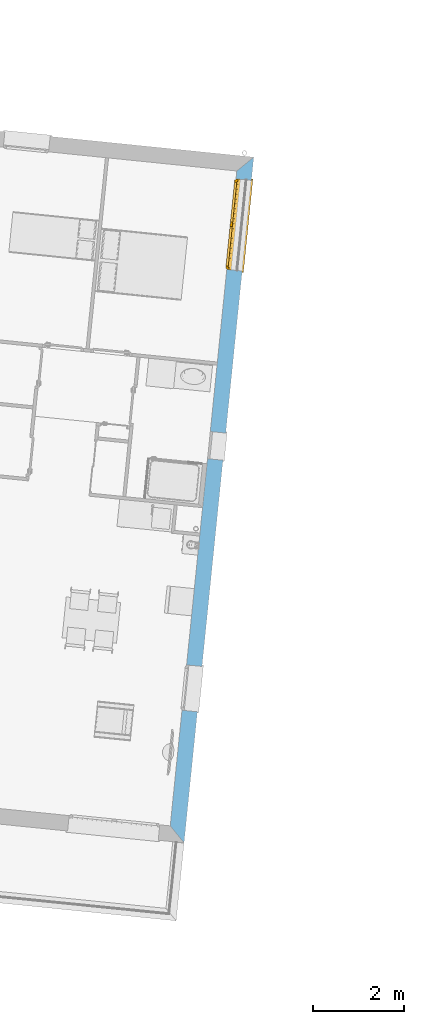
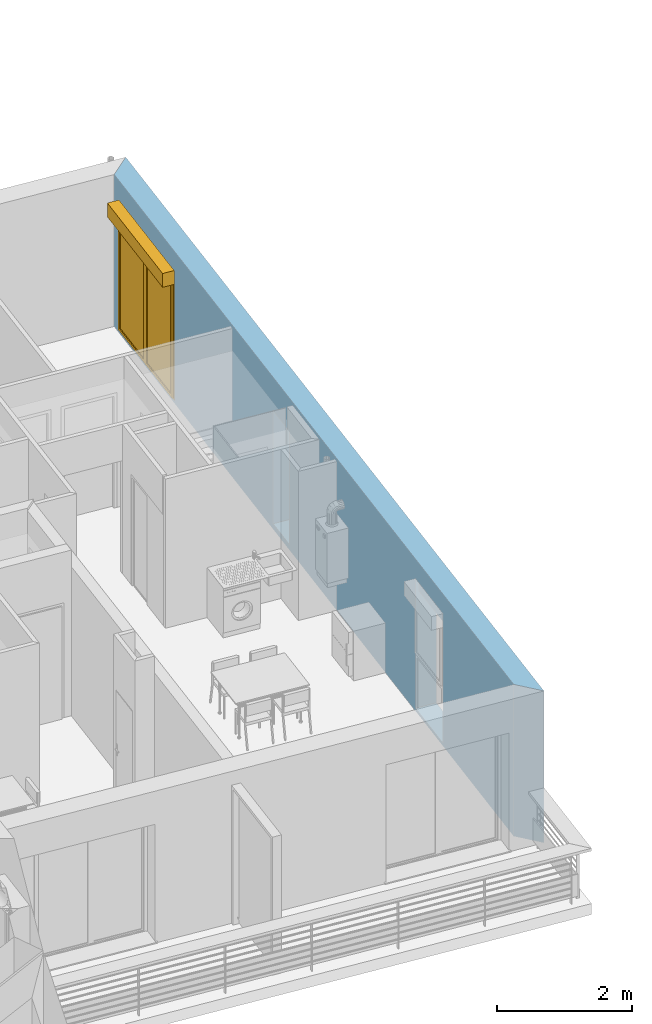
# One storey, part 59 of 164: 1 window, 3 openings, plus 1 element that does not belong to this part.
"""IFC2X3 building model written with IfcOpenShell, lengths in millimetres."""

from ifc_helpers import new_model, entity, si_unit, converted_unit, derived_unit, money_unit, direction, frame, origin_with_axes, origin_2d_with_axis, place, context, subcontext, project, spatial, polyline, rectangle, outline, extrude, open_shell, faceted_brep, surface_model, source, transform, mapped, material, layer, layer_set, layer_usage, type_object, element, fill, save


model = new_model("IFC2X3")

# Units and contexts
model_context = context("Model", 3, precision=0.01, world=origin_with_axes(), true_north=direction((0.0, 1.0)))
body_context = subcontext(model_context, "Body", "Model", "MODEL_VIEW")
ifc_project = project(units=[si_unit("LENGTHUNIT", "METRE", prefix="MILLI"), si_unit("AREAUNIT", "SQUARE_METRE"), si_unit("VOLUMEUNIT", "CUBIC_METRE"), converted_unit("PLANEANGLEUNIT", "DEGREE", entity("IfcPlaneAngleMeasure", 0.0174532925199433), si_unit("PLANEANGLEUNIT", "RADIAN"), dimensions=[0, 0, 0, 0, 0, 0, 0]), money_unit("USD"), converted_unit("TIMEUNIT", "Year", entity("IfcTimeMeasure", 31557600.0), si_unit("TIMEUNIT", "SECOND"), dimensions=[0, 0, 1, 0, 0, 0, 0]), si_unit("MASSUNIT", "GRAM", prefix="KILO"), si_unit("THERMODYNAMICTEMPERATUREUNIT", "DEGREE_CELSIUS"), si_unit("LUMINOUSINTENSITYUNIT", "LUMEN"), si_unit("ENERGYUNIT", "JOULE", prefix="MEGA"), derived_unit("THERMALCONDUCTANCEUNIT", [(si_unit("POWERUNIT", "WATT"), 1), (si_unit("LENGTHUNIT", "METRE"), -1), (si_unit("THERMODYNAMICTEMPERATUREUNIT", "KELVIN"), -1)]), derived_unit("SPECIFICHEATCAPACITYUNIT", [(si_unit("ENERGYUNIT", "JOULE"), 1), (si_unit("MASSUNIT", "GRAM", prefix="KILO"), -1), (si_unit("THERMODYNAMICTEMPERATUREUNIT", "KELVIN"), -1)]), derived_unit("MASSDENSITYUNIT", [(si_unit("MASSUNIT", "GRAM", prefix="KILO"), 1), (si_unit("VOLUMEUNIT", "CUBIC_METRE"), -1)])], contexts=[model_context])

# Site, building, storey
site_placement = place(None, origin_with_axes())
site = spatial("IfcSite", under=ifc_project, at=site_placement, Name="Site", CompositionType="ELEMENT")
building_placement = place(site_placement, origin_with_axes())
building = spatial("IfcBuilding", under=site, at=building_placement, Name="Bâtiment", CompositionType="ELEMENT")
storey_placement = place(building_placement, frame((0.0, 0.0, 5750.0), z_axis=(0.0, 0.0, 1.0), x_axis=(1.0, 0.0, 0.0)))
storey = spatial("IfcBuildingStorey", under=building, at=storey_placement, Name="Etage1", CompositionType="ELEMENT", Elevation=5750.0)

# Wall, openings, window
ifc_material_1 = material(Name="Parpaing 312445824")
ifc_layer_1 = layer(ifc_material_1, 180.0, ventilated="UNKNOWN")
ifc_material_2 = material(Name="Isolant styromousse 301821074")
ifc_layer_2 = layer(ifc_material_2, 160.0, ventilated="UNKNOWN")
ifc_layer_set = layer_set([ifc_layer_1, ifc_layer_2], Name="isol int 18+16 0018356637")
ifc_layer_usage = layer_usage(ifc_layer_set, "AXIS2", "NEGATIVE", 0.0)
wall_type = type_object("IfcWallType", Name="isol int 18+16 0018356637 340", PredefinedType="NOTDEFINED")
wall_placement = place(storey_placement, frame((2240182.946874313, -606236.1516955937, 0.0), z_axis=(0.0, 0.0, 1.0), x_axis=(-0.1011032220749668, -0.9948759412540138, 0.0)))
wall = element("IfcWallStandardCase", 1, at=wall_placement, inside=storey, type_object=wall_type, material=ifc_layer_usage, Name="Mur-142", context=body_context, shape_type="SweptSolid", body=[
    extrude(outline(polyline([(340.0000000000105, -340.0000000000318), (14791.61370310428, -340.0000000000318), (15131.61370310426, -1.13686837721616e-10), (0.0, 0.0), (340.0000000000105, -340.0000000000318)])), origin_with_axes(), (0.0, 0.0, 1.0), 2750.0),
])
opening_1_placement = place(wall_placement, frame((6388.845141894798, -3.410605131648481e-10, 99.99999999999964), z_axis=(0.0, 0.0, 1.0), x_axis=(1.0, 0.0, 0.0)))
element("IfcOpeningElement", 2, at=opening_1_placement, cuts=wall, Name="Fen-133", context=body_context, shape_type="SweptSolid", body=[
    extrude(rectangle(XDim=599.9999999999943, YDim=2050.0, at=origin_2d_with_axis()), frame((0.0, -290.0000000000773, 1025.0), z_axis=(0.0, -1.0, 0.0), x_axis=(-1.0, 0.0, 0.0)), (0.0, 0.0, -1.0), 629.9999999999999),
    extrude(rectangle(XDim=599.9999999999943, YDim=2050.0, at=origin_2d_with_axis()), frame((0.0, -290.0000000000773, 1025.0), z_axis=(0.0, 1.0, 0.0), x_axis=(-1.0, 0.0, 0.0)), (0.0, 0.0, -1.0), 389.9999999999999),
])
opening_2_placement = place(wall_placement, frame((11739.30937232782, -3.410605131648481e-10, 49.99999999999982), z_axis=(0.0, 0.0, 1.0), x_axis=(1.0, 0.0, 0.0)))
element("IfcOpeningElement", 3, at=opening_2_placement, cuts=wall, Name="Fen-133", context=body_context, shape_type="Brep", body=[
    faceted_brep([(-500.0, -290.0000000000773, 2100.0), (-500.0000000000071, -279.999999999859, 2100.0), (-499.9999999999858, 1523.015834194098, 2100.0), (-499.9999999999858, 1523.015834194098, 0.0), (-499.9999999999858, -290.0000000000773, 0.0), (-499.9999999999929, -529.9999999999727, 2100.0), (-499.9999999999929, -529.9999999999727, 2350.0), (-500.0000000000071, -279.999999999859, 2350.0), (500.0, -279.9999999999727, 2100.0), (500.0000000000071, 1523.015834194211, 2100.0), (500.0000000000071, 1523.015834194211, 0.0), (500.0000000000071, -289.9999999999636, 0.0), (500.0, -1863.015834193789, 0.0), (-500.0, -1863.015834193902, 0.0), (-500.0, -1863.015834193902, 2100.0), (500.0000000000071, -529.9999999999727, 2100.0), (500.0000000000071, -529.9999999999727, 2350.0), (500.0, -279.9999999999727, 2350.0), (500.0, -289.9999999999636, 2100.0), (500.0, -1863.015834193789, 2100.0)], [[[0, 1, 2, 3, 4]], [[1, 0, 5, 6, 7]], [[1, 8, 9, 2]], [[9, 10, 3, 2]], [[4, 3, 10, 11, 12, 13]], [[5, 0, 4, 13, 14]], [[5, 15, 16, 6]], [[16, 17, 7, 6]], [[8, 1, 7, 17]], [[8, 18, 11, 10, 9]], [[18, 15, 19, 12, 11]], [[14, 13, 12, 19]], [[15, 5, 14, 19]], [[18, 8, 17, 16, 15]]]),
])
opening_3_placement = place(wall_placement, frame((1513.435922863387, -3.410605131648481e-10, 49.99999999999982), z_axis=(0.0, 0.0, 1.0), x_axis=(1.0, 0.0, 0.0)))
opening_3 = element("IfcOpeningElement", 4, at=opening_3_placement, cuts=wall, Name="Fen-207", context=body_context, shape_type="Brep", body=[
    faceted_brep([(-1000.0, -290.0000000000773, 2100.0), (-999.999999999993, -279.9999999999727, 2100.0), (-1000.000000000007, 1523.015834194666, 2100.0), (-1000.000000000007, 1523.015834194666, 0.0), (-999.999999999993, -290.0000000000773, 0.0), (-1000.0, -529.9999999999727, 2100.0), (-1000.0, -529.9999999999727, 2350.0), (-999.999999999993, -279.9999999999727, 2350.0), (1000.000000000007, -279.9999999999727, 2100.0), (1000.0, 1523.015834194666, 2100.0), (1000.0, 1523.015834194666, 0.0), (1000.0, -289.9999999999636, 0.0), (1000.000000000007, -1863.015834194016, 0.0), (-1000.0, -1863.015834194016, 0.0), (-1000.0, -1863.015834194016, 2100.0), (1000.0, -530.0000000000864, 2100.0), (1000.0, -530.0000000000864, 2350.0), (1000.000000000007, -279.9999999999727, 2350.0), (1000.0, -289.9999999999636, 2100.0), (1000.000000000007, -1863.015834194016, 2100.0)], [[[0, 1, 2, 3, 4]], [[1, 0, 5, 6, 7]], [[1, 8, 9, 2]], [[9, 10, 3, 2]], [[4, 3, 10, 11, 12, 13]], [[5, 0, 4, 13, 14]], [[5, 15, 16, 6]], [[7, 6, 16, 17]], [[8, 1, 7, 17]], [[8, 18, 11, 10, 9]], [[18, 15, 19, 12, 11]], [[14, 13, 12, 19]], [[15, 5, 14, 19]], [[18, 8, 17, 16, 15]]]),
])
window_style = type_object("IfcWindowStyle", Name="Fenêtre châssis double variable 27", ConstructionType="NOTDEFINED", OperationType="DOUBLE_PANEL_VERTICAL", ParameterTakesPrecedence=False, Sizeable=False)
shared_shape = source(origin_with_axes(), body_context, "Body", "SurfaceModel", [
    surface_model("IfcShellBasedSurfaceModel", [(1000.0, -51.00000000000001, 40.00000000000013), (1000.0, -51.00000000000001, 50.00000000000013), (-1000.0, -51.00000000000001, 50.0), (-1000.0, -51.00000000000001, 40.0), (1030.0, -369.9999999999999, 28.96551724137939), (1030.0, -339.9999999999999, 30.00324289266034), (1000.0, -339.9999999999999, 30.00324289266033), (-1000.0, -339.9999999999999, 30.00324289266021), (-1030.0, -339.9999999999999, 30.00324289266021), (-1030.0, -369.9999999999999, 28.96551724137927), (1030.0, -369.9999999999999, 8.965517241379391), (-1030.0, -369.9999999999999, 8.965517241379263), (1030.0, -359.9999999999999, 18.96551724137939), (-1030.0, -359.9999999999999, 18.96551724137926)], [open_shell([[[0, 1, 2, 3]], [[4, 5, 6, 0, 3, 7, 8, 9]], [[10, 4, 9, 11]], [[12, 10, 11, 13]]])]),
    faceted_brep([(-1000.0, -60.00000000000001, 2350.0), (-997.0, -60.00000000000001, 2350.0), (-997.0, 190.0, 2350.0), (-1000.0, 190.0, 2350.0), (-1000.0, -60.00000000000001, 2100.0), (-997.0, -60.00000000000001, 2100.0), (-997.0, 190.0, 2100.0), (-1000.0, 190.0, 2100.0)], [[[0, 1, 2, 3]], [[4, 5, 1, 0]], [[1, 5, 6, 2]], [[3, 2, 6, 7]], [[0, 3, 7, 4]], [[7, 6, 5, 4]]]),
    faceted_brep([(997.0000000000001, -59.99999999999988, 2350.0), (1000.0, -59.99999999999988, 2350.0), (1000.0, 190.0000000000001, 2350.0), (997.0000000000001, 190.0000000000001, 2350.0), (997.0000000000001, -59.99999999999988, 2100.0), (1000.0, -59.99999999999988, 2100.0), (1000.0, 190.0000000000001, 2100.0), (997.0000000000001, 190.0000000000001, 2100.0)], [[[0, 1, 2, 3]], [[4, 5, 1, 0]], [[1, 5, 6, 2]], [[3, 2, 6, 7]], [[0, 3, 7, 4]], [[7, 6, 5, 4]]]),
    faceted_brep([(-997.0, -60.0, 2100.0), (997.0, -59.99999999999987, 2100.0), (997.0, -59.99999999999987, 2350.0), (-997.0, -60.0, 2350.0), (-997.0, -56.99999999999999, 2100.0), (997.0, -56.99999999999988, 2100.0), (997.0, -56.99999999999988, 2347.0), (997.0, 187.0000000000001, 2347.0), (997.0, 187.0000000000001, 2103.0), (997.0, -37.99999999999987, 2103.0), (997.0, -37.99999999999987, 2100.0), (997.0, 190.0000000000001, 2100.0), (997.0, 190.0000000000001, 2350.0), (-997.0, 190.0, 2350.0), (-997.0, 190.0, 2100.0), (-997.0, -37.99999999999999, 2100.0), (-997.0, -37.99999999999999, 2103.0), (-997.0, 187.0, 2103.0), (-997.0, 187.0, 2347.0), (-997.0, -56.99999999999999, 2347.0)], [[[0, 1, 2, 3]], [[4, 5, 1, 0]], [[1, 5, 6, 7, 8, 9, 10, 11, 12, 2]], [[3, 2, 12, 13]], [[0, 3, 13, 14, 15, 16, 17, 18, 19, 4]], [[19, 6, 5, 4]], [[18, 7, 6, 19]], [[17, 8, 7, 18]], [[16, 9, 8, 17]], [[15, 10, 9, 16]], [[14, 11, 10, 15]], [[13, 12, 11, 14]]]),
    faceted_brep([(-994.0, -40.37442957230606, 2206.419644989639), (-994.0, -41.99999999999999, 2225.0), (-994.0, -40.37442957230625, 2243.580355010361), (-994.0, -35.54711042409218, 2261.596155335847), (-994.0, -27.66471820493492, 2278.5), (-994.0, -16.96675541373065, 2293.77827423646), (-994.0, -3.778274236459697, 2306.966755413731), (-994.0, 11.5, 2317.664718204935), (-994.0, 28.40384466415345, 2325.547110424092), (-994.0, 46.41964498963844, 2330.374429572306), (-994.0, 64.99999999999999, 2332.0), (-994.0, 83.58035501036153, 2330.374429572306), (-994.0, 101.5961553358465, 2325.547110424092), (-994.0, 118.5, 2317.664718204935), (-994.0, 133.7782742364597, 2306.966755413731), (-994.0, 146.9667554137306, 2293.77827423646), (-994.0, 157.6647182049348, 2278.5), (-994.0, 165.5471104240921, 2261.596155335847), (-994.0, 170.3744295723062, 2243.580355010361), (-994.0, 171.9999999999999, 2225.0), (-994.0, 170.3744295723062, 2206.419644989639), (-994.0, 165.5471104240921, 2188.403844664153), (-994.0, 157.6647182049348, 2171.5), (-994.0, 146.9667554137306, 2156.22172576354), (-994.0, 133.7782742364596, 2143.03324458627), (-994.0, 118.4999999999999, 2132.335281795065), (-994.0, 101.5961553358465, 2124.452889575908), (-994.0, 83.58035501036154, 2119.625570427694), (-994.0, 65.00000000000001, 2118.0), (-994.0, 46.4196449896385, 2119.625570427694), (-994.0, 28.40384466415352, 2124.452889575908), (-994.0, 11.50000000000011, 2132.335281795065), (-994.0, -3.778274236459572, 2143.03324458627), (-994.0, -16.9667554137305, 2156.22172576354), (-994.0, -27.66471820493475, 2171.5), (-994.0, -35.54711042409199, 2188.403844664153), (994.0, -40.37442957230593, 2206.419644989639), (994.0, -41.99999999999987, 2225.0), (994.0, -40.37442957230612, 2243.580355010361), (994.0, -35.54711042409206, 2261.596155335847), (994.0, -27.6647182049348, 2278.5), (994.0, -16.96675541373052, 2293.77827423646), (994.0, -3.778274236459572, 2306.966755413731), (994.0, 11.50000000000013, 2317.664718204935), (994.0, 28.40384466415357, 2325.547110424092), (994.0, 46.41964498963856, 2330.374429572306), (994.0, 65.00000000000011, 2332.0), (994.0, 83.58035501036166, 2330.374429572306), (994.0, 101.5961553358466, 2325.547110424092), (994.0, 118.5000000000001, 2317.664718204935), (994.0, 133.7782742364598, 2306.966755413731), (994.0, 146.9667554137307, 2293.77827423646), (994.0, 157.664718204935, 2278.5), (994.0, 165.5471104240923, 2261.596155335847), (994.0, 170.3744295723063, 2243.580355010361), (994.0, 172.0, 2225.0), (994.0, 170.3744295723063, 2206.419644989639), (994.0, 165.5471104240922, 2188.403844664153), (994.0, 157.6647182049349, 2171.5), (994.0, 146.9667554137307, 2156.22172576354), (994.0, 133.7782742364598, 2143.03324458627), (994.0, 118.5000000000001, 2132.335281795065), (994.0, 101.5961553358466, 2124.452889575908), (994.0, 83.58035501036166, 2119.625570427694), (994.0, 65.00000000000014, 2118.0), (994.0, 46.41964498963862, 2119.625570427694), (994.0, 28.40384466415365, 2124.452889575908), (994.0, 11.50000000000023, 2132.335281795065), (994.0, -3.778274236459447, 2143.03324458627), (994.0, -16.96675541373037, 2156.22172576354), (994.0, -27.66471820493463, 2171.5), (994.0, -35.54711042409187, 2188.403844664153)], [[[0, 1, 2, 3, 4, 5, 6, 7, 8, 9, 10, 11, 12, 13, 14, 15, 16, 17, 18, 19, 20, 21, 22, 23, 24, 25, 26, 27, 28, 29, 30, 31, 32, 33, 34, 35]], [[0, 36, 37, 1]], [[1, 37, 38, 2]], [[2, 38, 39, 3]], [[3, 39, 40, 4]], [[4, 40, 41, 5]], [[5, 41, 42, 6]], [[6, 42, 43, 7]], [[7, 43, 44, 8]], [[8, 44, 45, 9]], [[9, 45, 46, 10]], [[10, 46, 47, 11]], [[11, 47, 48, 12]], [[12, 48, 49, 13]], [[13, 49, 50, 14]], [[14, 50, 51, 15]], [[15, 51, 52, 16]], [[16, 52, 53, 17]], [[17, 53, 54, 18]], [[18, 54, 55, 19]], [[19, 55, 56, 20]], [[20, 56, 57, 21]], [[21, 57, 58, 22]], [[22, 58, 59, 23]], [[23, 59, 60, 24]], [[24, 60, 61, 25]], [[25, 61, 62, 26]], [[26, 62, 63, 27]], [[27, 63, 64, 28]], [[28, 64, 65, 29]], [[29, 65, 66, 30]], [[30, 66, 67, 31]], [[31, 67, 68, 32]], [[32, 68, 69, 33]], [[33, 69, 70, 34]], [[34, 70, 71, 35]], [[35, 71, 36, 0]], [[36, 71, 70, 69, 68, 67, 66, 65, 64, 63, 62, 61, 60, 59, 58, 57, 56, 55, 54, 53, 52, 51, 50, 49, 48, 47, 46, 45, 44, 43, 42, 41, 40, 39, 38, 37]]]),
    faceted_brep([(1000.0, -34.99999999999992, 30.0), (1000.0, -34.99999999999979, 2100.0), (1000.0, -59.99999999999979, 2100.0), (1000.0, -59.99999999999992, 30.0), (975.0, -34.99999999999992, 30.0), (975.0, -34.99999999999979, 2100.0), (975.0, -37.99999999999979, 2100.0), (997.0, -37.99999999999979, 2100.0), (997.0, -56.99999999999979, 2100.0), (975.0, -56.99999999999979, 2100.0), (975.0, -59.99999999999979, 2100.0), (975.0, -59.99999999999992, 30.0), (975.0, -56.99999999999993, 30.0), (997.0, -56.99999999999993, 30.0), (997.0, -37.99999999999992, 30.0), (975.0, -37.99999999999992, 30.0)], [[[0, 1, 2, 3]], [[4, 5, 1, 0]], [[1, 5, 6, 7, 8, 9, 10, 2]], [[3, 2, 10, 11]], [[0, 3, 11, 12, 13, 14, 15, 4]], [[15, 6, 5, 4]], [[14, 7, 6, 15]], [[13, 8, 7, 14]], [[12, 9, 8, 13]], [[11, 10, 9, 12]]]),
    faceted_brep([(-1000.0, -34.99999999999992, 30.0), (-1000.0, -59.99999999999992, 30.0), (-1000.0, -59.99999999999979, 2100.0), (-1000.0, -34.99999999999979, 2100.0), (-975.0, -34.99999999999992, 30.0), (-975.0, -37.99999999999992, 30.0), (-997.0, -37.99999999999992, 30.0), (-997.0, -56.99999999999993, 30.0), (-975.0, -56.99999999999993, 30.0), (-975.0, -59.99999999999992, 30.0), (-975.0, -59.99999999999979, 2100.0), (-975.0, -56.99999999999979, 2100.0), (-997.0, -56.99999999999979, 2100.0), (-997.0, -37.99999999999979, 2100.0), (-975.0, -37.99999999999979, 2100.0), (-975.0, -34.99999999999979, 2100.0)], [[[0, 1, 2, 3]], [[0, 4, 5, 6, 7, 8, 9, 1]], [[1, 9, 10, 2]], [[3, 2, 10, 11, 12, 13, 14, 15]], [[4, 0, 3, 15]], [[5, 4, 15, 14]], [[6, 5, 14, 13]], [[7, 6, 13, 12]], [[8, 7, 12, 11]], [[9, 8, 11, 10]]]),
    faceted_brep([(997.0, -46.66666666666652, 2225.0), (997.0, -46.66666666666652, 2216.666666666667), (-997.0, -46.66666666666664, 2216.666666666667), (-997.0, -46.66666666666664, 2225.0), (997.0, -51.66666666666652, 2225.0), (997.0, -51.66666666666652, 2216.666666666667), (997.0, -49.99999999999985, 2200.0), (997.0, -44.99999999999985, 2200.0), (-997.0, -44.99999999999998, 2200.0), (-997.0, -49.99999999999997, 2200.0), (-997.0, -51.66666666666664, 2216.666666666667), (-997.0, -51.66666666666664, 2225.0)], [[[0, 1, 2, 3]], [[4, 5, 6, 7, 1, 0]], [[2, 1, 7, 8]], [[3, 2, 8, 9, 10, 11]], [[3, 11, 4, 0]], [[10, 5, 4, 11]], [[9, 6, 5, 10]], [[8, 7, 6, 9]]]),
    faceted_brep([(-997.0, -44.99999999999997, 2200.0), (997.0, -44.99999999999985, 2200.0), (997.0, -46.66666666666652, 2183.333333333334), (-997.0, -46.66666666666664, 2183.333333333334), (-997.0, -49.99999999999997, 2200.0), (997.0, -49.99999999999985, 2200.0), (997.0, -51.66666666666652, 2183.333333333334), (997.0, -51.66666666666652, 2166.666666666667), (997.0, -49.99999999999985, 2150.000000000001), (997.0, -44.99999999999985, 2150.000000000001), (997.0, -46.66666666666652, 2166.666666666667), (-997.0, -46.66666666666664, 2166.666666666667), (-997.0, -44.99999999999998, 2150.000000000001), (-997.0, -49.99999999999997, 2150.000000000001), (-997.0, -51.66666666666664, 2166.666666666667), (-997.0, -51.66666666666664, 2183.333333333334)], [[[0, 1, 2, 3]], [[4, 5, 1, 0]], [[1, 5, 6, 7, 8, 9, 10, 2]], [[3, 2, 10, 11]], [[0, 3, 11, 12, 13, 14, 15, 4]], [[15, 6, 5, 4]], [[14, 7, 6, 15]], [[13, 8, 7, 14]], [[12, 9, 8, 13]], [[11, 10, 9, 12]]]),
    faceted_brep([(-997.0, -44.99999999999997, 2150.000000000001), (997.0, -44.99999999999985, 2150.000000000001), (997.0, -46.66666666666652, 2133.333333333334), (-997.0, -46.66666666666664, 2133.333333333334), (-997.0, -49.99999999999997, 2150.000000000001), (997.0, -49.99999999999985, 2150.000000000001), (997.0, -51.66666666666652, 2133.333333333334), (997.0, -51.66666666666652, 2116.666666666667), (997.0, -49.99999999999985, 2100.000000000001), (997.0, -44.99999999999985, 2100.000000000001), (997.0, -46.66666666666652, 2116.666666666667), (-997.0, -46.66666666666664, 2116.666666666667), (-997.0, -44.99999999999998, 2100.000000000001), (-997.0, -49.99999999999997, 2100.000000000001), (-997.0, -51.66666666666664, 2116.666666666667), (-997.0, -51.66666666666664, 2133.333333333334)], [[[0, 1, 2, 3]], [[4, 5, 1, 0]], [[1, 5, 6, 7, 8, 9, 10, 2]], [[3, 2, 10, 11]], [[0, 3, 11, 12, 13, 14, 15, 4]], [[15, 6, 5, 4]], [[14, 7, 6, 15]], [[13, 8, 7, 14]], [[12, 9, 8, 13]], [[11, 10, 9, 12]]]),
    faceted_brep([(-975.0, 0.0, 2050.0), (-1000.0, 0.0, 2050.0), (-1000.0, -50.00000000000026, 2050.0), (-950.0, -50.00000000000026, 2050.0), (-950.0, -25.00000000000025, 2050.0), (-975.0, -25.00000000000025, 2050.0), (-975.0, 0.0, 50.00000000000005), (-1000.0, 0.0, 50.00000000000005), (-1000.0, -50.00000000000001, 50.00000000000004), (-950.0, -50.00000000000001, 50.00000000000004), (-950.0, -25.00000000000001, 50.00000000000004), (-975.0, -25.00000000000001, 50.00000000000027)], [[[0, 1, 2, 3, 4, 5]], [[6, 7, 1, 0]], [[1, 7, 8, 2]], [[2, 8, 9, 3]], [[4, 3, 9, 10]], [[10, 11, 5, 4]], [[5, 11, 6, 0]], [[11, 10, 9, 8, 7, 6]]]),
    faceted_brep([(950.0, -25.00000000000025, 2050.0), (950.0, -50.00000000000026, 2050.0), (1000.0, -50.00000000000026, 2050.0), (1000.0, 0.0, 2050.0), (975.0, 0.0, 2050.0), (975.0, -25.00000000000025, 2050.0), (950.0, -25.00000000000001, 50.00000000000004), (950.0, -50.00000000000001, 50.00000000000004), (1000.0, -50.00000000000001, 50.00000000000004), (1000.0, 0.0, 50.00000000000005), (975.0, 0.0, 50.00000000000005), (975.0, -25.00000000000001, 50.00000000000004)], [[[0, 1, 2, 3, 4, 5]], [[6, 7, 1, 0]], [[8, 2, 1, 7]], [[9, 3, 2, 8]], [[4, 3, 9, 10]], [[10, 11, 5, 4]], [[5, 11, 6, 0]], [[11, 10, 9, 8, 7, 6]]]),
    faceted_brep([(950.0, -25.00000000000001, 50.00000000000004), (950.0, -50.00000000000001, 50.00000000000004), (1000.0, -50.00000000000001, 50.00000000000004), (1000.0, 0.0, 50.00000000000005), (975.0, 0.0, 50.00000000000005), (975.0, -25.00000000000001, 50.00000000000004), (-950.0, -25.00000000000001, 50.00000000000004), (-950.0, -50.00000000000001, 50.00000000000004), (-1000.0, -50.00000000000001, 50.00000000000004), (-1000.0, -50.0, 0.0), (1000.0, -50.0, 0.0), (1000.0, 0.0, 0.0), (-975.0, 0.0, 24.99999999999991), (975.0, 0.0, 24.99999999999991), (-1000.0, 0.0, 0.0), (-1000.0, 0.0, 50.00000000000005), (-975.0, 0.0, 50.00000000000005), (975.0, -25.0, 24.99999999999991), (-975.0, -25.0, 24.99999999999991), (-975.0, -25.00000000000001, 50.00000000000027)], [[[0, 1, 2, 3, 4, 5]], [[6, 7, 1, 0]], [[8, 9, 10, 2, 1, 7]], [[11, 3, 2, 10]], [[12, 13, 4, 3, 11, 14, 15, 16]], [[13, 17, 5, 4]], [[5, 17, 18, 19, 6, 0]], [[19, 16, 15, 8, 7, 6]], [[15, 14, 9, 8]], [[14, 11, 10, 9]], [[12, 18, 17, 13]], [[19, 18, 12, 16]]]),
    faceted_brep([(-975.0, 0.0, 2050.0), (-1000.0, 0.0, 2050.0), (-1000.0, 0.0, 2100.0), (1000.0, 0.0, 2100.0), (1000.0, 0.0, 2050.0), (975.0, 0.0, 2050.0), (975.0, 0.0, 2075.0), (-975.0, 0.0, 2075.0), (-975.0, -25.00000000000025, 2050.0), (-950.0, -25.00000000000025, 2050.0), (-950.0, -50.00000000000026, 2050.0), (-1000.0, -50.00000000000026, 2050.0), (-1000.0, -50.00000000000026, 2100.0), (1000.0, -50.00000000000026, 2100.0), (1000.0, -50.00000000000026, 2050.0), (975.0, -25.00000000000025, 2050.0), (950.0, -50.00000000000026, 2050.0), (950.0, -25.00000000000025, 2050.0), (975.0, -25.00000000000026, 2075.0), (-975.0, -25.00000000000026, 2075.0)], [[[0, 1, 2, 3, 4, 5, 6, 7]], [[8, 9, 10, 11, 1, 0]], [[2, 1, 11, 12]], [[3, 2, 12, 13]], [[4, 3, 13, 14]], [[15, 5, 4, 14, 16, 17]], [[5, 15, 18, 6]], [[6, 18, 19, 7]], [[7, 19, 8, 0]], [[17, 9, 8, 19, 18, 15]], [[17, 16, 10, 9]], [[14, 13, 12, 11, 10, 16]]]),
    faceted_brep([(-925.0, -25.00000000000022, 2025.0), (-925.0, 24.99999999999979, 2025.0), (-975.0, 24.99999999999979, 2025.0), (-975.0, -25.00000000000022, 2025.0), (-925.0, -24.99999999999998, 75.00000000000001), (-925.0, 25.00000000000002, 75.00000000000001), (-975.0, 25.00000000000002, 75.00000000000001), (-975.0, -24.99999999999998, 75.00000000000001)], [[[0, 1, 2, 3]], [[4, 5, 1, 0]], [[1, 5, 6, 2]], [[3, 2, 6, 7]], [[0, 3, 7, 4]], [[7, 6, 5, 4]]]),
    faceted_brep([(-49.99999999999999, -25.00000000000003, 75.00000000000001), (-49.99999999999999, 24.99999999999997, 75.00000000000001), (0.0, 24.99999999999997, 75.00000000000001), (0.0, -25.00000000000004, 75.00000000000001), (-49.99999999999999, -25.00000000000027, 2025.0), (-49.99999999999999, 24.99999999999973, 2025.0), (0.0, 24.99999999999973, 2025.0), (0.0, -25.00000000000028, 2025.0)], [[[0, 1, 2, 3]], [[4, 5, 1, 0]], [[1, 5, 6, 2]], [[3, 2, 6, 7]], [[0, 3, 7, 4]], [[7, 6, 5, 4]]]),
    faceted_brep([(0.0, -25.00000000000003, 25.0), (0.0, 24.99999999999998, 25.00000000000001), (0.0, 24.99999999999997, 75.00000000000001), (0.0, -25.00000000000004, 75.00000000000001), (-975.0, -24.99999999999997, 25.0), (-975.0, 25.00000000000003, 25.00000000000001), (-975.0, 25.00000000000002, 75.00000000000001), (-925.0, 25.00000000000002, 75.00000000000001), (-49.99999999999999, 24.99999999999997, 75.00000000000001), (-49.99999999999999, -25.00000000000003, 75.00000000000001), (-925.0, -24.99999999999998, 75.00000000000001), (-975.0, -24.99999999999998, 75.00000000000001)], [[[0, 1, 2, 3]], [[4, 5, 1, 0]], [[1, 5, 6, 7, 8, 2]], [[3, 2, 8, 9]], [[0, 3, 9, 10, 11, 4]], [[11, 6, 5, 4]], [[10, 7, 6, 11]], [[9, 8, 7, 10]]]),
    faceted_brep([(-975.0, -25.00000000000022, 2075.0), (-975.0, 24.99999999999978, 2075.0), (-975.0, 24.99999999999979, 2025.0), (-975.0, -25.00000000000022, 2025.0), (0.0, -25.00000000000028, 2075.0), (0.0, 24.99999999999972, 2075.0), (0.0, 24.99999999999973, 2025.0), (-49.99999999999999, 24.99999999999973, 2025.0), (-925.0, 24.99999999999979, 2025.0), (-925.0, -25.00000000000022, 2025.0), (-49.99999999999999, -25.00000000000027, 2025.0), (0.0, -25.00000000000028, 2025.0)], [[[0, 1, 2, 3]], [[4, 5, 1, 0]], [[1, 5, 6, 7, 8, 2]], [[3, 2, 8, 9]], [[0, 3, 9, 10, 11, 4]], [[11, 6, 5, 4]], [[10, 7, 6, 11]], [[9, 8, 7, 10]]]),
    surface_model("IfcShellBasedSurfaceModel", [(-925.0, -10.00000000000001, 75.00000000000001), (-49.99999999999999, -10.00000000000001, 75.00000000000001), (-49.99999999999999, -10.00000000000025, 2025.0), (-925.0, -10.00000000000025, 2025.0)], [open_shell([[[0, 1, 2, 3]]])]),
    surface_model("IfcShellBasedSurfaceModel", [(-925.0, 9.999999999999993, 75.00000000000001), (-925.0, 9.999999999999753, 2025.0), (-49.99999999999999, 9.999999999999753, 2025.0), (-49.99999999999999, 9.999999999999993, 75.00000000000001)], [open_shell([[[0, 1, 2, 3]]])]),
    faceted_brep([(49.99999999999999, -25.00000000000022, 2025.0), (49.99999999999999, 24.99999999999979, 2025.0), (0.0, 24.99999999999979, 2025.0), (0.0, -25.00000000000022, 2025.0), (49.99999999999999, -24.99999999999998, 75.00000000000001), (49.99999999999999, 25.00000000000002, 75.00000000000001), (0.0, 25.00000000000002, 75.00000000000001), (0.0, -24.99999999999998, 75.00000000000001)], [[[0, 1, 2, 3]], [[4, 5, 1, 0]], [[1, 5, 6, 2]], [[3, 2, 6, 7]], [[0, 3, 7, 4]], [[7, 6, 5, 4]]]),
    faceted_brep([(925.0, -25.00000000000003, 75.00000000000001), (925.0, 24.99999999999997, 75.00000000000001), (975.0, 24.99999999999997, 75.00000000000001), (975.0, -25.00000000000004, 75.00000000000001), (925.0, -25.00000000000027, 2025.0), (925.0, 24.99999999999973, 2025.0), (975.0, 24.99999999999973, 2025.0), (975.0, -25.00000000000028, 2025.0)], [[[0, 1, 2, 3]], [[4, 5, 1, 0]], [[1, 5, 6, 2]], [[3, 2, 6, 7]], [[0, 3, 7, 4]], [[7, 6, 5, 4]]]),
    faceted_brep([(975.0, -25.00000000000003, 25.0), (975.0, 24.99999999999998, 25.00000000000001), (975.0, 24.99999999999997, 75.00000000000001), (975.0, -25.00000000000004, 75.00000000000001), (0.0, -24.99999999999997, 25.0), (0.0, 25.00000000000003, 25.00000000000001), (0.0, 25.00000000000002, 75.00000000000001), (49.99999999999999, 25.00000000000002, 75.00000000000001), (925.0, 24.99999999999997, 75.00000000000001), (925.0, -25.00000000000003, 75.00000000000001), (49.99999999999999, -24.99999999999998, 75.00000000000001), (0.0, -24.99999999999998, 75.00000000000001)], [[[0, 1, 2, 3]], [[4, 5, 1, 0]], [[1, 5, 6, 7, 8, 2]], [[3, 2, 8, 9]], [[0, 3, 9, 10, 11, 4]], [[11, 6, 5, 4]], [[10, 7, 6, 11]], [[9, 8, 7, 10]]]),
    faceted_brep([(0.0, -25.00000000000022, 2075.0), (0.0, 24.99999999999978, 2075.0), (0.0, 24.99999999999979, 2025.0), (0.0, -25.00000000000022, 2025.0), (975.0, -25.00000000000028, 2075.0), (975.0, 24.99999999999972, 2075.0), (975.0, 24.99999999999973, 2025.0), (925.0, 24.99999999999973, 2025.0), (49.99999999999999, 24.99999999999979, 2025.0), (49.99999999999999, -25.00000000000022, 2025.0), (925.0, -25.00000000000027, 2025.0), (975.0, -25.00000000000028, 2025.0)], [[[0, 1, 2, 3]], [[4, 5, 1, 0]], [[1, 5, 6, 7, 8, 2]], [[3, 2, 8, 9]], [[0, 3, 9, 10, 11, 4]], [[11, 6, 5, 4]], [[10, 7, 6, 11]], [[9, 8, 7, 10]]]),
    surface_model("IfcShellBasedSurfaceModel", [(49.99999999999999, -10.00000000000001, 75.00000000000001), (925.0, -10.00000000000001, 75.00000000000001), (925.0, -10.00000000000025, 2025.0), (49.99999999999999, -10.00000000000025, 2025.0)], [open_shell([[[0, 1, 2, 3]]])]),
    surface_model("IfcShellBasedSurfaceModel", [(49.99999999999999, 9.999999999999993, 75.00000000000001), (49.99999999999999, 9.999999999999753, 2025.0), (925.0, 9.999999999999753, 2025.0), (925.0, 9.999999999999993, 75.00000000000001)], [open_shell([[[0, 1, 2, 3]]])]),
])
window_placement = place(opening_3_placement, frame((1000.000000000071, 1.13686837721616e-10, 0.0), z_axis=(0.0, 0.0, 1.0), x_axis=(-1.0, 0.0, 0.0)))
window = element("IfcWindow", 5, at=window_placement, inside=storey, type_object=window_style, Name="Fen-207", OverallHeight=2100.0, OverallWidth=2000.0, context=body_context, shape_type="MappedRepresentation", body=[
    mapped(shared_shape, transform((1000.0, 340.0000000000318, 0.0))),
])
fill(opening_3, window)

save(model, "model.ifc")
